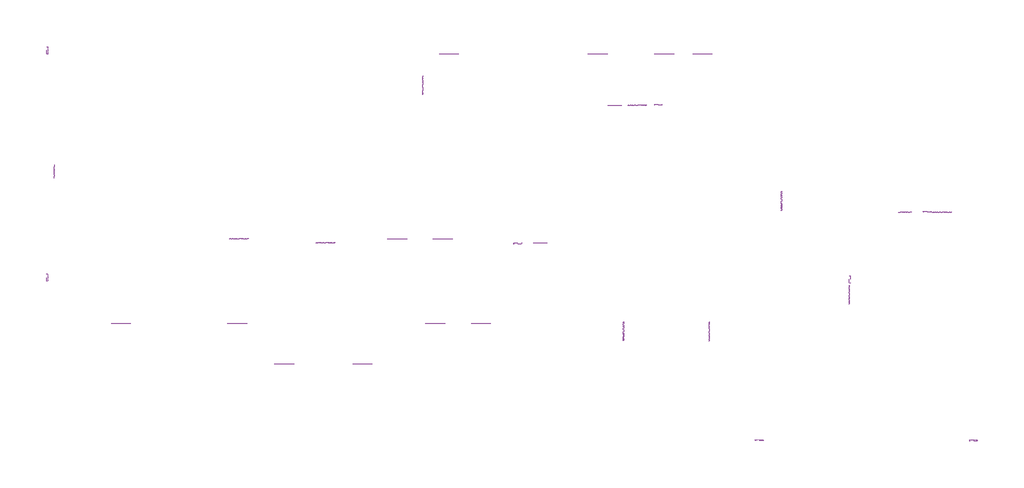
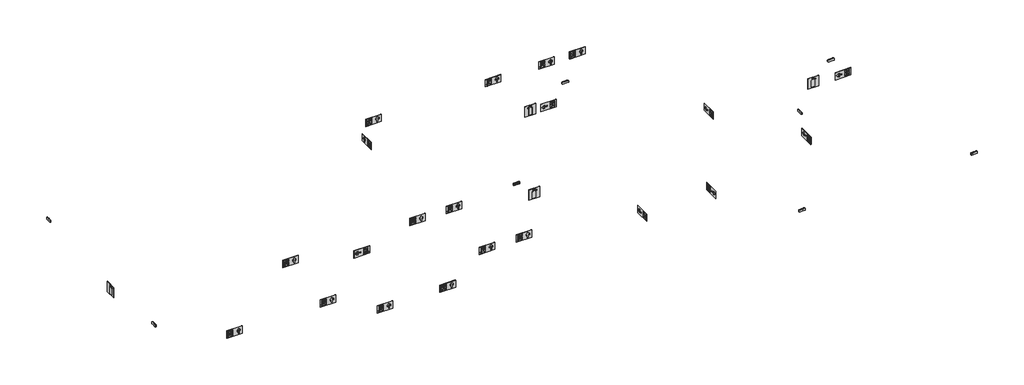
# One storey, incomplete: 25 flow terminals, 8 light fixtures.
"""IFC4 building model written with IfcOpenShell, lengths in millimetres."""

from ifc_helpers import new_model, si_unit, origin, place, context, project, spatial, transform, mapped, element, save
from components import flow_terminal_106c1e76, flow_terminal_d03e9d94, flow_terminal_384159a2, flow_terminal_be68b2b2, light_fixture_2w_9bd4df86, light_fixture_2w_85303c80

model = new_model("IFC4")

# Units and contexts
model_context = context("Model", 3, world=origin())
ifc_project = project(units=[si_unit("LENGTHUNIT", "METRE", prefix="MILLI")], contexts=[model_context])

# Site, building, storey
site = spatial("IfcSite", under=ifc_project)
building = spatial("IfcBuilding", under=site)
storey = spatial("IfcBuildingStorey", under=building, Name="01 - Térreo", Elevation=0.0)

# Flow terminals
placement = place(None, origin())
flow_terminal_shape = flow_terminal_106c1e76(model_context)
element("IfcFlowTerminal", 1, ObjectType="PLACA DE SINALIZAÇÃO-S1 : Distancia maxima visibilidade - 10 metros", at=placement, inside=storey, context=model_context, shape_type="MappedRepresentation", body=[
    mapped(flow_terminal_shape, transform((11992.2639789, -152.6576254, 1800.0), x_axis=(0.0, 1.0, 0.0), y_axis=(-1.0, 0.0, 0.0), z_axis=(0.0, 0.0, 1.0))),
])
element("IfcFlowTerminal", 2, ObjectType="PLACA DE SINALIZAÇÃO-S1 : Distancia maxima visibilidade - 10 metros", at=placement, inside=storey, context=model_context, shape_type="MappedRepresentation", body=[
    mapped(flow_terminal_shape, transform((16212.4431776, -456.8383503, 1800.0), x_axis=(-1.0, 0.0, 0.0), y_axis=(0.0, -1.0, 0.0), z_axis=(0.0, 0.0, 1.0))),
])
element("IfcFlowTerminal", 3, ObjectType="PLACA DE SINALIZAÇÃO-S1 : Distancia maxima visibilidade - 10 metros", at=placement, inside=storey, context=model_context, shape_type="MappedRepresentation", body=[
    mapped(flow_terminal_shape, transform((22.9586164, -1256.9383503, 1800.0), x_axis=(-1.0, 0.0, 0.0), y_axis=(0.0, -1.0, 0.0), z_axis=(0.0, 0.0, 1.0))),
])
element("IfcFlowTerminal", 4, ObjectType="PLACA DE SINALIZAÇÃO-S1 : Distancia maxima visibilidade - 10 metros", at=placement, inside=storey, context=model_context, shape_type="MappedRepresentation", body=[
    mapped(flow_terminal_shape, transform((8209.1273402, 2353.0366497, 1800.0), x_axis=(-1.0, 0.0, 0.0), y_axis=(0.0, -1.0, 0.0), z_axis=(0.0, 0.0, 1.0))),
])
flow_terminal_2_shape = flow_terminal_d03e9d94(model_context)
element("IfcFlowTerminal", 5, ObjectType="PLACA DE SINALIZAÇÃO-S2 : Distancia maxima visibilidade - 10 metros", at=placement, inside=storey, context=model_context, shape_type="MappedRepresentation", body=[
    mapped(flow_terminal_2_shape, transform((13773.9261462, -2613.8129398, 1800.0), x_axis=(0.0, -1.0, 0.0), y_axis=(1.0, 0.0, 0.0), z_axis=(0.0, 0.0, 1.0))),
])
element("IfcFlowTerminal", 6, ObjectType="PLACA DE SINALIZAÇÃO-S2 : Distancia maxima visibilidade - 10 metros", at=placement, inside=storey, context=model_context, shape_type="MappedRepresentation", body=[
    mapped(flow_terminal_2_shape, transform((10099.4198962, -3583.6851104, 1800.0), x_axis=(0.0, 1.0, 0.0), y_axis=(-1.0, 0.0, 0.0), z_axis=(0.0, 0.0, 1.0))),
])
element("IfcFlowTerminal", 7, ObjectType="PLACA DE SINALIZAÇÃO-S2 : Distancia maxima visibilidade - 10 metros", at=placement, inside=storey, context=model_context, shape_type="MappedRepresentation", body=[
    mapped(flow_terminal_2_shape, transform((7849.1386462, -3573.9924254, 1800.0), x_axis=(0.0, -1.0, 0.0), y_axis=(1.0, 0.0, 0.0), z_axis=(0.0, 0.0, 1.0))),
])
flow_terminal_3_shape = flow_terminal_384159a2(model_context)
element("IfcFlowTerminal", 8, ObjectType="PLACA DE SINALIZAÇÃO-S3 : Distancia maxima visibilidade - 10 metros", at=placement, inside=storey, context=model_context, shape_type="MappedRepresentation", body=[
    mapped(flow_terminal_3_shape, transform((3269.6555914, 3708.4398579, 2200.0), x_axis=(1.0, 0.0, 0.0), y_axis=(0.0, 1.0, 0.0), z_axis=(0.0, 0.0, 1.0))),
])
element("IfcFlowTerminal", 9, ObjectType="PLACA DE SINALIZAÇÃO-S3 : Distancia maxima visibilidade - 10 metros", at=placement, inside=storey, context=model_context, shape_type="MappedRepresentation", body=[
    mapped(flow_terminal_3_shape, transform((7176.0298228, 3707.9824208, 2200.0), x_axis=(1.0, 0.0, 0.0), y_axis=(0.0, 1.0, 0.0), z_axis=(0.0, 0.0, 1.0))),
])
element("IfcFlowTerminal", 10, ObjectType="PLACA DE SINALIZAÇÃO-S3 : Distancia maxima visibilidade - 10 metros", at=placement, inside=storey, context=model_context, shape_type="MappedRepresentation", body=[
    mapped(flow_terminal_3_shape, transform((8926.9720171, 3707.9824208, 2200.0), x_axis=(1.0, 0.0, 0.0), y_axis=(0.0, 1.0, 0.0), z_axis=(0.0, 0.0, 1.0))),
])
element("IfcFlowTerminal", 11, ObjectType="PLACA DE SINALIZAÇÃO-S3 : Distancia maxima visibilidade - 10 metros", at=placement, inside=storey, context=model_context, shape_type="MappedRepresentation", body=[
    mapped(flow_terminal_3_shape, transform((9929.1044574, 3707.9824208, 2200.0), x_axis=(1.0, 0.0, 0.0), y_axis=(0.0, 1.0, 0.0), z_axis=(0.0, 0.0, 1.0))),
])
element("IfcFlowTerminal", 12, ObjectType="PLACA DE SINALIZAÇÃO-S3 : Distancia maxima visibilidade - 10 metros", at=placement, inside=storey, context=model_context, shape_type="MappedRepresentation", body=[
    mapped(flow_terminal_3_shape, transform((2573.7561621, 2884.9582227, 2200.0), x_axis=(0.0, 1.0, 0.0), y_axis=(-1.0, 0.0, 0.0), z_axis=(0.0, 0.0, 1.0))),
])
element("IfcFlowTerminal", 13, ObjectType="PLACA DE SINALIZAÇÃO-S3 : Distancia maxima visibilidade - 10 metros", at=placement, inside=storey, context=model_context, shape_type="MappedRepresentation", body=[
    mapped(flow_terminal_3_shape, transform((4102.1018941, -3369.2646398, 2200.0), x_axis=(1.0000000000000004, 0.0, 0.0), y_axis=(0.0, 1.0000000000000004, 0.0), z_axis=(0.0, 0.0, 1.0))),
])
element("IfcFlowTerminal", 14, ObjectType="PLACA DE SINALIZAÇÃO-S3 : Distancia maxima visibilidade - 10 metros", at=placement, inside=storey, context=model_context, shape_type="MappedRepresentation", body=[
    mapped(flow_terminal_3_shape, transform((2898.6011462, -3369.2646398, 2200.0), x_axis=(1.0, 0.0, 0.0), y_axis=(0.0, 1.0, 0.0), z_axis=(0.0, 0.0, 1.0))),
])
element("IfcFlowTerminal", 15, ObjectType="PLACA DE SINALIZAÇÃO-S3 : Distancia maxima visibilidade - 10 metros", at=placement, inside=storey, context=model_context, shape_type="MappedRepresentation", body=[
    mapped(flow_terminal_3_shape, transform((998.8311037, -4431.8140161, 2200.0), x_axis=(1.0, 0.0, 0.0), y_axis=(0.0, 1.0, 0.0), z_axis=(0.0, 0.0, 1.0))),
])
element("IfcFlowTerminal", 16, ObjectType="PLACA DE SINALIZAÇÃO-S3 : Distancia maxima visibilidade - 10 metros", at=placement, inside=storey, context=model_context, shape_type="MappedRepresentation", body=[
    mapped(flow_terminal_3_shape, transform((-1052.4121629, -4431.8140161, 2200.0), x_axis=(1.0, 0.0, 0.0), y_axis=(0.0, 1.0, 0.0), z_axis=(0.0, 0.0, 1.0))),
])
element("IfcFlowTerminal", 17, ObjectType="PLACA DE SINALIZAÇÃO-S3 : Distancia maxima visibilidade - 10 metros", at=placement, inside=storey, context=model_context, shape_type="MappedRepresentation", body=[
    mapped(flow_terminal_3_shape, transform((-2302.6566663, -3369.9219936, 2200.0), x_axis=(1.0, 0.0, 0.0), y_axis=(0.0, 1.0, 0.0), z_axis=(0.0, 0.0, 1.0))),
])
element("IfcFlowTerminal", 18, ObjectType="PLACA DE SINALIZAÇÃO-S3 : Distancia maxima visibilidade - 10 metros", at=placement, inside=storey, context=model_context, shape_type="MappedRepresentation", body=[
    mapped(flow_terminal_3_shape, transform((-5350.6441663, -3369.9219936, 2200.0), x_axis=(1.0, 0.0, 0.0), y_axis=(0.0, 1.0, 0.0), z_axis=(0.0, 0.0, 1.0))),
])
element("IfcFlowTerminal", 19, ObjectType="PLACA DE SINALIZAÇÃO-S3 : Distancia maxima visibilidade - 10 metros", at=placement, inside=storey, context=model_context, shape_type="MappedRepresentation", body=[
    mapped(flow_terminal_3_shape, transform((-2251.0144788, -1147.3750164, 2200.0), x_axis=(1.0, 0.0, 0.0), y_axis=(0.0, 1.0, 0.0), z_axis=(0.0, 0.0, 1.0))),
])
element("IfcFlowTerminal", 20, ObjectType="PLACA DE SINALIZAÇÃO-S3 : Distancia maxima visibilidade - 10 metros", at=placement, inside=storey, context=model_context, shape_type="MappedRepresentation", body=[
    mapped(flow_terminal_3_shape, transform((1897.2705097, -1152.9586327, 2200.0), x_axis=(1.0, 0.0, 0.0), y_axis=(0.0, 1.0, 0.0), z_axis=(0.0, 0.0, 1.0))),
])
element("IfcFlowTerminal", 21, ObjectType="PLACA DE SINALIZAÇÃO-S3 : Distancia maxima visibilidade - 10 metros", at=placement, inside=storey, context=model_context, shape_type="MappedRepresentation", body=[
    mapped(flow_terminal_3_shape, transform((3097.3730396, -1152.9586327, 2200.0), x_axis=(1.0, 0.0, 0.0), y_axis=(0.0, 1.0, 0.0), z_axis=(0.0, 0.0, 1.0))),
])
flow_terminal_4_shape = flow_terminal_be68b2b2(model_context)
element("IfcFlowTerminal", 22, ObjectType="PLACA DE SINALIZAÇÃO-E5 : Distancia maxima visibilidade - 10 metros", at=placement, inside=storey, context=model_context, shape_type="MappedRepresentation", body=[
    mapped(flow_terminal_4_shape, transform((-7100.8316676, 620.3130722, 1800.0), x_axis=(0.0, 1.0, 0.0), y_axis=(-1.0, 0.0, 0.0), z_axis=(0.0, 0.0, 1.0))),
])
element("IfcFlowTerminal", 23, ObjectType="PLACA DE SINALIZAÇÃO-E5 : Distancia maxima visibilidade - 10 metros", at=placement, inside=storey, context=model_context, shape_type="MappedRepresentation", body=[
    mapped(flow_terminal_4_shape, transform((7615.4696852, 2353.0366497, 1800.0), x_axis=(1.0, 0.0, 0.0), y_axis=(0.0, 1.0, 0.0), z_axis=(0.0, 0.0, 1.0))),
])
element("IfcFlowTerminal", 24, ObjectType="PLACA DE SINALIZAÇÃO-E5 : Distancia maxima visibilidade - 10 metros", at=placement, inside=storey, context=model_context, shape_type="MappedRepresentation", body=[
    mapped(flow_terminal_4_shape, transform((5652.3104409, -1261.9383503, 1800.0), x_axis=(-1.0, 0.0, 0.0), y_axis=(0.0, -1.0, 0.0), z_axis=(0.0, 0.0, 1.0))),
])
element("IfcFlowTerminal", 25, ObjectType="PLACA DE SINALIZAÇÃO-E5 : Distancia maxima visibilidade - 10 metros", at=placement, inside=storey, context=model_context, shape_type="MappedRepresentation", body=[
    mapped(flow_terminal_4_shape, transform((15237.1779031, -456.8383503, 1800.0), x_axis=(-1.0, 0.0, 0.0), y_axis=(0.0, -1.0, 0.0), z_axis=(0.0, 0.0, 1.0))),
])

# Light fixtures
light_fixture_2w_shape = light_fixture_2w_9bd4df86(model_context)
element("IfcLightFixture", 26, ObjectType="Luminária seta indicativa parede vinculada : 2W", at=placement, inside=storey, context=model_context, shape_type="MappedRepresentation", body=[
    mapped(light_fixture_2w_shape, transform((11409.4890895, -6456.5864626, 0.0), x_axis=(1.0, 0.0, 0.0), y_axis=(0.0, 1.0, 0.0), z_axis=(0.0, 0.0, 1.0))),
])
element("IfcLightFixture", 27, ObjectType="Luminária seta indicativa parede vinculada : 2W", at=placement, inside=storey, context=model_context, shape_type="MappedRepresentation", body=[
    mapped(light_fixture_2w_shape, transform((-7300.8752507, -2164.6111396, 0.0), x_axis=(-1.6124931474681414e-05, -0.9999999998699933, 0.0), y_axis=(0.9999999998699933, -1.6124931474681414e-05, 0.0), z_axis=(0.0, 0.0, 1.0))),
])
element("IfcLightFixture", 28, ObjectType="Luminária seta indicativa parede vinculada : 2W", at=placement, inside=storey, context=model_context, shape_type="MappedRepresentation", body=[
    mapped(light_fixture_2w_shape, transform((-7300.7788814, 3798.1121231, 0.0), x_axis=(0.0, -1.0, 0.0), y_axis=(1.0, 0.0, 0.0), z_axis=(0.0, 0.0, 1.0))),
])
element("IfcLightFixture", 29, ObjectType="Luminária seta indicativa parede vinculada : 2W", at=placement, inside=storey, context=model_context, shape_type="MappedRepresentation", body=[
    mapped(light_fixture_2w_shape, transform((17038.2887317, -6456.7376893, 0.0), x_axis=(1.0, 0.0, 0.0), y_axis=(0.0, 1.0, 0.0), z_axis=(0.0, 0.0, 1.0))),
])
light_fixture_2w_2_shape = light_fixture_2w_85303c80(model_context)
element("IfcLightFixture", 30, ObjectType="Luminária de Emergência na parede vinculada : 2W", at=placement, inside=storey, context=model_context, shape_type="MappedRepresentation", body=[
    mapped(light_fixture_2w_2_shape, transform((15820.4781815, -456.8383503, 0.0), x_axis=(1.0, 0.0, 0.0), y_axis=(0.0, 1.0, 0.0), z_axis=(0.0, 0.0, 1.0))),
])
element("IfcLightFixture", 31, ObjectType="Luminária de Emergência na parede vinculada : 2W", at=placement, inside=storey, context=model_context, shape_type="MappedRepresentation", body=[
    mapped(light_fixture_2w_2_shape, transform((13768.9261462, -2215.7690306, 0.0), x_axis=(0.0, -1.0, 0.0), y_axis=(1.0, 0.0, 0.0), z_axis=(0.0, 0.0, 1.0))),
])
element("IfcLightFixture", 32, ObjectType="Luminária de Emergência na parede vinculada : 2W", at=placement, inside=storey, context=model_context, shape_type="MappedRepresentation", body=[
    mapped(light_fixture_2w_2_shape, transform((8763.4388948, 2353.0366497, 0.0), x_axis=(1.0, 0.0, 0.0), y_axis=(0.0, 1.0, 0.0), z_axis=(0.0, 0.0, 1.0))),
])
element("IfcLightFixture", 33, ObjectType="Luminária de Emergência na parede vinculada : 2W", at=placement, inside=storey, context=model_context, shape_type="MappedRepresentation", body=[
    mapped(light_fixture_2w_2_shape, transform((5068.6367106, -1256.9383503, 0.0), x_axis=(-1.0000000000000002, 0.0, 0.0), y_axis=(0.0, -1.0000000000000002, 0.0), z_axis=(0.0, 0.0, 1.0))),
])

save(model, "model.ifc")
